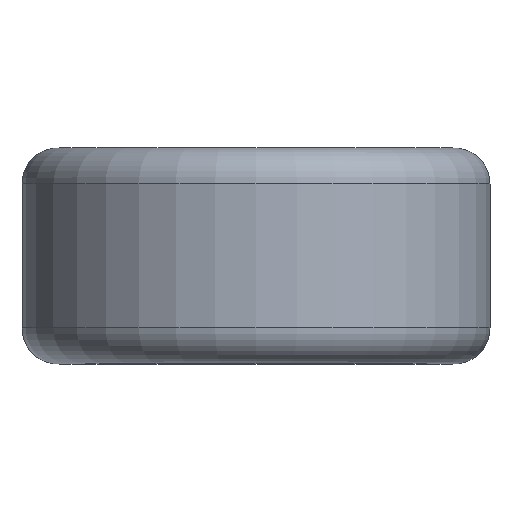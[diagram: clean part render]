
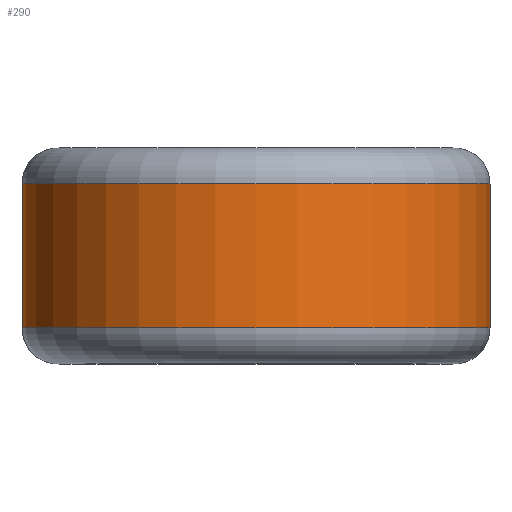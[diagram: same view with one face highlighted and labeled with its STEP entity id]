
A CAD part, top view. The second image highlights one B-rep face of the part: STEP entity #290.
In plain terms, the highlighted cylindrical face has radius 6.5 mm (diameter 13 mm), a full revolution.
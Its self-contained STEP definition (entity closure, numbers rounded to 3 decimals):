
#17=FACE_BOUND('',#87,.T.);
#18=FACE_BOUND('',#88,.T.);
#27=B_SPLINE_CURVE_WITH_KNOTS('',3,(#866,#867,#868,#869,#870,#871,#872,
#873,#874,#875,#876,#877,#878,#879,#880,#881,#882,#883),.UNSPECIFIED.,.T.,
 .F.,(4,1,1,1,1,1,1,1,2,1,1,1,2,4),(-0.299,-0.283,
-0.267,-0.235,-0.203,-0.171,
-0.155,-0.147,-0.139,-0.115,
-0.102,-0.096,-0.078,-0.047),
 .UNSPECIFIED.);
#28=B_SPLINE_CURVE_WITH_KNOTS('',3,(#899,#900,#901,#902,#903,#904,#905,
#906,#907,#908,#909,#910,#911,#912,#913,#914,#915,#916,#917,#918,#919),
 .UNSPECIFIED.,.T.,.F.,(4,1,1,1,1,1,1,1,1,1,1,1,2,1,1,2,4),(-0.31,
-0.292,-0.274,-0.265,-0.256,
-0.238,-0.22,-0.202,-0.166,
-0.148,-0.139,-0.134,-0.13,
-0.102,-0.088,-0.061,-0.025),
 .UNSPECIFIED.);
#68=FACE_OUTER_BOUND('',#86,.T.);
#86=EDGE_LOOP('',(#226,#227,#228,#229,#230,#231,#232,#233));
#87=EDGE_LOOP('',(#234));
#88=EDGE_LOOP('',(#235));
#101=LINE('',#889,#104);
#104=VECTOR('',#379,6.5);
#112=CIRCLE('',#331,6.5);
#113=CIRCLE('',#332,6.5);
#114=CIRCLE('',#333,6.5);
#115=CIRCLE('',#334,6.5);
#116=CIRCLE('',#335,6.5);
#117=CIRCLE('',#336,6.5);
#138=VERTEX_POINT('',#864);
#139=VERTEX_POINT('',#885);
#140=VERTEX_POINT('',#886);
#141=VERTEX_POINT('',#888);
#142=VERTEX_POINT('',#890);
#143=VERTEX_POINT('',#892);
#144=VERTEX_POINT('',#895);
#145=VERTEX_POINT('',#898);
#172=EDGE_CURVE('',#138,#138,#27,.T.);
#173=EDGE_CURVE('',#139,#140,#112,.T.);
#174=EDGE_CURVE('',#140,#141,#101,.T.);
#175=EDGE_CURVE('',#141,#142,#113,.T.);
#176=EDGE_CURVE('',#142,#143,#114,.T.);
#177=EDGE_CURVE('',#143,#141,#115,.T.);
#178=EDGE_CURVE('',#140,#144,#116,.T.);
#179=EDGE_CURVE('',#144,#139,#117,.T.);
#180=EDGE_CURVE('',#145,#145,#28,.T.);
#226=ORIENTED_EDGE('',*,*,#173,.T.);
#227=ORIENTED_EDGE('',*,*,#174,.T.);
#228=ORIENTED_EDGE('',*,*,#175,.T.);
#229=ORIENTED_EDGE('',*,*,#176,.T.);
#230=ORIENTED_EDGE('',*,*,#177,.T.);
#231=ORIENTED_EDGE('',*,*,#174,.F.);
#232=ORIENTED_EDGE('',*,*,#178,.T.);
#233=ORIENTED_EDGE('',*,*,#179,.T.);
#234=ORIENTED_EDGE('',*,*,#180,.T.);
#235=ORIENTED_EDGE('',*,*,#172,.T.);
#282=CYLINDRICAL_SURFACE('',#330,6.5);
#290=ADVANCED_FACE('',(#68,#17,#18),#282,.T.);
#330=AXIS2_PLACEMENT_3D('',#884,#375,#376);
#331=AXIS2_PLACEMENT_3D('',#887,#377,#378);
#332=AXIS2_PLACEMENT_3D('',#891,#380,#381);
#333=AXIS2_PLACEMENT_3D('',#893,#382,#383);
#334=AXIS2_PLACEMENT_3D('',#894,#384,#385);
#335=AXIS2_PLACEMENT_3D('',#896,#386,#387);
#336=AXIS2_PLACEMENT_3D('',#897,#388,#389);
#375=DIRECTION('center_axis',(0.,-1.,0.));
#376=DIRECTION('ref_axis',(1.,0.,0.));
#377=DIRECTION('center_axis',(0.,-1.,0.));
#378=DIRECTION('ref_axis',(-1.,0.,0.));
#379=DIRECTION('',(0.,-1.,0.));
#380=DIRECTION('center_axis',(0.,1.,0.));
#381=DIRECTION('ref_axis',(-1.,0.,0.));
#382=DIRECTION('center_axis',(0.,1.,0.));
#383=DIRECTION('ref_axis',(-1.,0.,0.));
#384=DIRECTION('center_axis',(0.,1.,0.));
#385=DIRECTION('ref_axis',(-1.,0.,0.));
#386=DIRECTION('center_axis',(0.,-1.,0.));
#387=DIRECTION('ref_axis',(-1.,0.,0.));
#388=DIRECTION('center_axis',(0.,-1.,0.));
#389=DIRECTION('ref_axis',(-1.,0.,0.));
#864=CARTESIAN_POINT('',(-1.949,1.988,-6.201));
#866=CARTESIAN_POINT('Ctrl Pts',(-1.949,1.988,-6.201));
#867=CARTESIAN_POINT('Ctrl Pts',(-2.016,1.991,-6.18));
#868=CARTESIAN_POINT('Ctrl Pts',(-2.151,1.967,-6.135));
#869=CARTESIAN_POINT('Ctrl Pts',(-2.381,1.811,-6.05));
#870=CARTESIAN_POINT('Ctrl Pts',(-2.523,1.456,-5.989));
#871=CARTESIAN_POINT('Ctrl Pts',(-2.361,1.023,-6.059));
#872=CARTESIAN_POINT('Ctrl Pts',(-2.025,0.88,-6.18));
#873=CARTESIAN_POINT('Ctrl Pts',(-1.789,0.937,-6.25));
#874=CARTESIAN_POINT('Ctrl Pts',(-1.669,1.008,-6.282));
#875=CARTESIAN_POINT('Ctrl Pts',(-1.617,1.055,-6.296));
#876=CARTESIAN_POINT('Ctrl Pts',(-1.519,1.158,-6.32));
#877=CARTESIAN_POINT('Ctrl Pts',(-1.437,1.31,-6.339));
#878=CARTESIAN_POINT('Ctrl Pts',(-1.437,1.506,-6.339));
#879=CARTESIAN_POINT('Ctrl Pts',(-1.478,1.666,-6.33));
#880=CARTESIAN_POINT('Ctrl Pts',(-1.537,1.761,-6.316));
#881=CARTESIAN_POINT('Ctrl Pts',(-1.686,1.92,-6.278));
#882=CARTESIAN_POINT('Ctrl Pts',(-1.818,1.983,-6.242));
#883=CARTESIAN_POINT('Ctrl Pts',(-1.949,1.988,-6.201));
#884=CARTESIAN_POINT('Origin',(0.,0.,0.));
#885=CARTESIAN_POINT('',(6.5,2.,0.));
#886=CARTESIAN_POINT('',(-6.5,2.,0.));
#887=CARTESIAN_POINT('Origin',(0.,2.,0.));
#888=CARTESIAN_POINT('',(-6.5,-2.,0.));
#889=CARTESIAN_POINT('',(-6.5,0.,0.));
#890=CARTESIAN_POINT('',(0.,-2.,6.5));
#891=CARTESIAN_POINT('Origin',(0.,-2.,0.));
#892=CARTESIAN_POINT('',(6.5,-2.,0.));
#893=CARTESIAN_POINT('Origin',(0.,-2.,0.));
#894=CARTESIAN_POINT('Origin',(0.,-2.,0.));
#895=CARTESIAN_POINT('',(0.,2.,-6.5));
#896=CARTESIAN_POINT('Origin',(0.,2.,0.));
#897=CARTESIAN_POINT('Origin',(0.,2.,0.));
#898=CARTESIAN_POINT('',(1.949,-1.988,-6.201));
#899=CARTESIAN_POINT('Ctrl Pts',(1.949,-1.988,-6.201));
#900=CARTESIAN_POINT('Ctrl Pts',(2.016,-1.991,-6.18));
#901=CARTESIAN_POINT('Ctrl Pts',(2.152,-1.967,-6.135));
#902=CARTESIAN_POINT('Ctrl Pts',(2.295,-1.87,-6.082));
#903=CARTESIAN_POINT('Ctrl Pts',(2.381,-1.76,-6.048));
#904=CARTESIAN_POINT('Ctrl Pts',(2.446,-1.634,-6.022));
#905=CARTESIAN_POINT('Ctrl Pts',(2.48,-1.454,-6.008));
#906=CARTESIAN_POINT('Ctrl Pts',(2.442,-1.239,-6.024));
#907=CARTESIAN_POINT('Ctrl Pts',(2.293,-0.994,-6.084));
#908=CARTESIAN_POINT('Ctrl Pts',(2.025,-0.88,-6.18));
#909=CARTESIAN_POINT('Ctrl Pts',(1.788,-0.937,-6.25));
#910=CARTESIAN_POINT('Ctrl Pts',(1.684,-0.999,-6.278));
#911=CARTESIAN_POINT('Ctrl Pts',(1.629,-1.043,-6.293));
#912=CARTESIAN_POINT('Ctrl Pts',(1.604,-1.067,-6.299));
#913=CARTESIAN_POINT('Ctrl Pts',(1.519,-1.158,-6.321));
#914=CARTESIAN_POINT('Ctrl Pts',(1.437,-1.309,-6.339));
#915=CARTESIAN_POINT('Ctrl Pts',(1.437,-1.59,-6.339));
#916=CARTESIAN_POINT('Ctrl Pts',(1.519,-1.742,-6.32));
#917=CARTESIAN_POINT('Ctrl Pts',(1.686,-1.92,-6.278));
#918=CARTESIAN_POINT('Ctrl Pts',(1.818,-1.983,-6.242));
#919=CARTESIAN_POINT('Ctrl Pts',(1.949,-1.988,-6.201));
